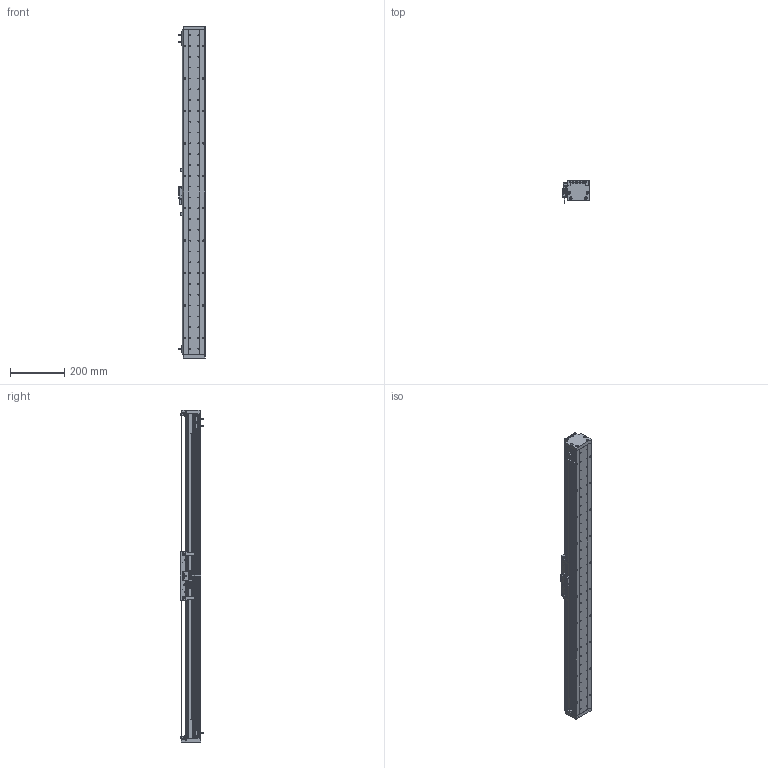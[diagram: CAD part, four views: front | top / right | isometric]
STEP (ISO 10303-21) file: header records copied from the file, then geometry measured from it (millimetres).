
FILE_DESCRIPTION (( 'STEP AP203' ), '1' );
FILE_NAME ('DA-A82-B2-T980-C010-0.2 眻盄萇儂.STEP', '2025-08-13T03:07:58', ( '' ), ( '' ), 'SwSTEP 2.0', 'SolidWorks 2019', '' );
FILE_SCHEMA (( 'CONFIG_CONTROL_DESIGN' ));
Length unit declared in the file: millimetre
Products named in the file (23): 复件 复件 17517-0000-004-00  钢带压块^DA-A82-B2-T-C010-0.2(默认); AU82-M 幗紩賑怢; DA-A82-B2-T980-C010-0.2 眻盄萇儂; 葩璃 鞠褒情蹟譫 M3^DA-A82-B2-T-C010-0.2; 葩璃 XD-U-02  棠掑喜^DA-A82-B2-T-C010-0.2; 葩璃 DA82-B2-DP-00 結え^AU82-M 幗紩賑怢; 复件 复件 复件 DA82 钢带盖板^DA-A82-B2-T-C010-0.2(默认); 葩璃 DMT-010 1米m 0.2M^DA-A82-B2-T-C010-0.2; 葩璃 葩璃 17517-0000-002-00 傷啣^DA-A82-B2-T-C010-0.2; AU82-M-00 珨极趙賑雄怢啣; 复件 纯铜油杯 6x6mm^AU82-M 滚珠滑台; 复件 复件 DA82-XJ-00 缓冲橡胶^DA-A82-B2-T-C010-0.2; 复件 DA95-GT-T-00 底座钢轨^IU-AU82-L 底座导轨; ｸｴｼ BKM02-W040-C1-TP-DA-3.0 ﾖｱﾏﾟｵ扈巐ｯﾗﾓ^DA-A82-B2-T-C010-0.2; 葩璃 DA60-DMT-DTJ-00 黍杅芛盓殤^DA-A82-B2-T-C010-0.2; 复件 DA95-B2-GT-00 滑块钢轨^AU82-M-00 一体化滑动台板; AU82-HT-M-00 賑雄怢啣; IU-AU82-L-00 菁釱(L1200); DA-A60-GYP-DMT-00 光电感应片^DA-A82-B2-T-C010-0.2(默认); 葩璃 BKM01-W040-TRL^DA-A82-B2-T-C010-0.2; IU-AU82-L 菁釱絳寢; 复件 复件 17517-0000-003-00 钢带拉块^DA-A82-B2-T-C010-0.2; 葩璃 PM-T45^DA-A82-B2-T-C010-0.2
Assembly tree (40 placements, depth 4):
  DA-A82-B2-T980-C010-0.2 眻盄萇儂
    IU-AU82-L 菁釱絳寢
      IU-AU82-L-00 菁釱(L1200)
      复件 DA95-GT-T-00 底座钢轨^IU-AU82-L 底座导轨  x2
    AU82-M 幗紩賑怢
      AU82-M-00 珨极趙賑雄怢啣
        AU82-HT-M-00 賑雄怢啣
        复件 DA95-B2-GT-00 滑块钢轨^AU82-M-00 一体化滑动台板  x4
      葩璃 DA82-B2-DP-00 結え^AU82-M 幗紩賑怢  x2
      复件 纯铜油杯 6x6mm^AU82-M 滚珠滑台  x2
    葩璃 DA60-DMT-DTJ-00 黍杅芛盓殤^DA-A82-B2-T-C010-0.2
    葩璃 DMT-010 1米m 0.2M^DA-A82-B2-T-C010-0.2
    DA-A60-GYP-DMT-00 光电感应片^DA-A82-B2-T-C010-0.2(默认)  x2
    ｸｴｼ BKM02-W040-C1-TP-DA-3.0 ﾖｱﾏﾟｵ扈巐ｯﾗﾓ^DA-A82-B2-T-C010-0.2
    复件 复件 17517-0000-003-00 钢带拉块^DA-A82-B2-T-C010-0.2  x2
    复件 复件 DA82-XJ-00 缓冲橡胶^DA-A82-B2-T-C010-0.2  x2
    复件 复件 17517-0000-004-00  钢带压块^DA-A82-B2-T-C010-0.2(默认)  x2
    葩璃 葩璃 17517-0000-002-00 傷啣^DA-A82-B2-T-C010-0.2  x2
    复件 复件 复件 DA82 钢带盖板^DA-A82-B2-T-C010-0.2(默认)
    葩璃 BKM01-W040-TRL^DA-A82-B2-T-C010-0.2
    葩璃 PM-T45^DA-A82-B2-T-C010-0.2  x3
    葩璃 XD-U-02  棠掑喜^DA-A82-B2-T-C010-0.2
    葩璃 鞠褒情蹟譫 M3^DA-A82-B2-T-C010-0.2  x6
Bounding box: 98.95 x 87.2 x 1228 mm (x, y, z)
Volume: 3679640.6 mm3; surface area: 1109303.3 mm2
Topology: 44 solids, 68 shells, 2229 faces, 5828 edges, 3658 vertices
Faces by surface type: cylinder 1049, plane 890, cone 272, bspline 8, torus 8, sphere 2
Entity records: 59459 total; most frequent: CARTESIAN_POINT 13027, DIRECTION 9359, ORIENTED_EDGE 8760, EDGE_CURVE 4380, AXIS2_PLACEMENT_3D 3555, VERTEX_POINT 2842, VECTOR 2249, LINE 2249
